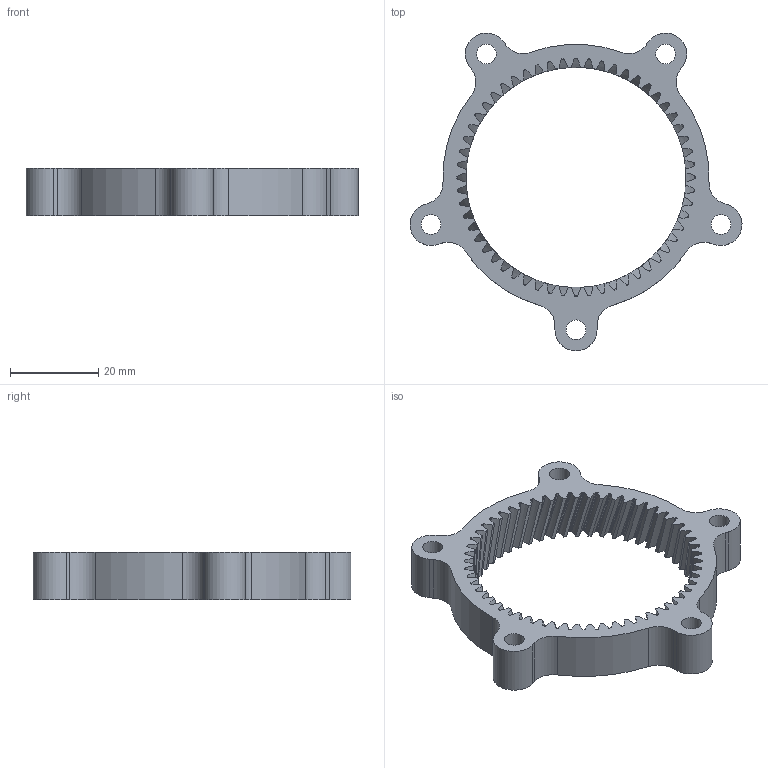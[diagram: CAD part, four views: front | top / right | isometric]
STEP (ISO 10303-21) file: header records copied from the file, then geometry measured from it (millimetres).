
FILE_DESCRIPTION(/* description */ ('STEP AP242 Edition 2','CAx-IF Rec.Pracs.---Representation and Presentation of Product Manufacturing Information (PMI)---4.0---2014-10-13','CAx-IF Rec.Pracs.---3D Tessellated Geometry---0.4---2014-09-14','2;1','CAx-IF Rec.Pracs.---User Defined Attributes---1.5---2016-08-15'),/* implementation_level */ '2;1');
FILE_NAME(/* name */ 'Main - Ring Gear',/* time_stamp */ '2026-07-24T17:05:37Z',/* author */ (''),/* organization */ (''),/* preprocessor_version */ 'ST-DEVELOPER v20',/* originating_system */ 'ONSHAPE BY PTC INC, 1.218',/* authorisation */ ' ');
FILE_SCHEMA (('AP242_MANAGED_MODEL_BASED_3D_ENGINEERING_MIM_LF { 1 0 10303 442 3 1 4 }'));
Length unit declared in the file: metre
Products named in the file (1): Ring Gear
Bounding box: 75.23 x 72.01 x 10.72 mm (x, y, z)
Volume: 11604.1 mm3; surface area: 9131.7 mm2
Topology: 1 solids, 1 shells, 373 faces, 1118 edges, 747 vertices
Faces by surface type: bspline 280, cylinder 81, plane 12
Full cylindrical faces by diameter (mm): 4.5 x5
Entity records: 21186 total; most frequent: CARTESIAN_POINT 13872, ORIENTED_EDGE 2216, EDGE_CURVE 1108, VERTEX_POINT 742, B_SPLINE_CURVE_WITH_KNOTS 728, DIRECTION 618, EDGE_LOOP 390, FACE_BOUND 390
